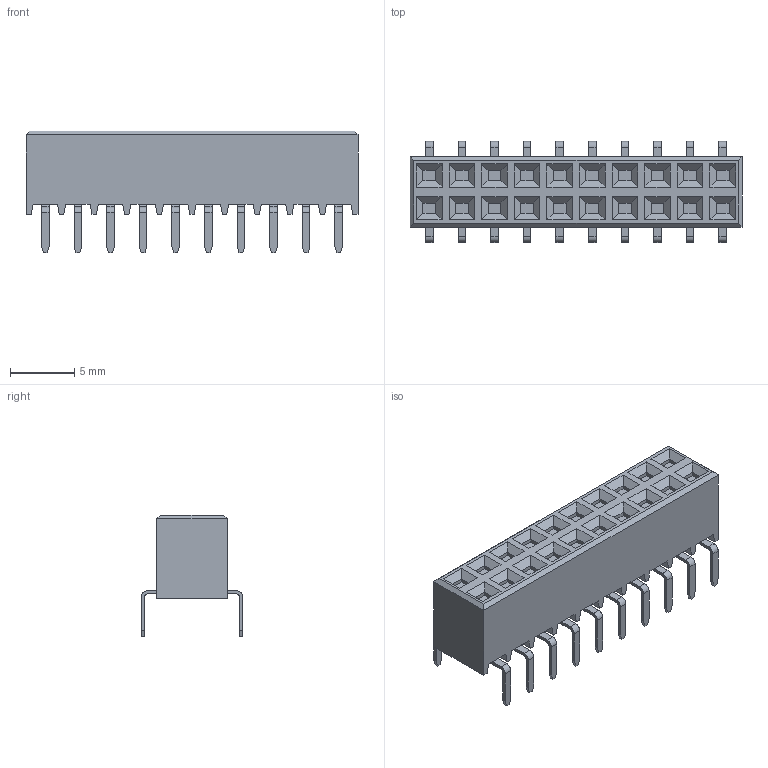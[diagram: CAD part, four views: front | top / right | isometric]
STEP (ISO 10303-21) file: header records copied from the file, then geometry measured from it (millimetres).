
FILE_DESCRIPTION (( 'STEP AP214' ), '1' );
FILE_NAME ('00_9072_220_901_883+.STEP', '2019-11-05T06:06:48', ( '' ), ( '' ), 'SwSTEP 2.0', 'SolidWorks 2017', '' );
FILE_SCHEMA (( 'AUTOMOTIVE_DESIGN' ));
Length unit declared in the file: millimetre
Products named in the file (1): 00_9072_220_901_883+
Bounding box: 25.86 x 7.87 x 9.5 mm (x, y, z)
Volume: 822 mm3; surface area: 943.1 mm2
Topology: 1 solids, 1 shells, 490 faces, 1260 edges, 812 vertices
Faces by surface type: plane 410, cylinder 80
Entity records: 14646 total; most frequent: CARTESIAN_POINT 2563, ORIENTED_EDGE 2520, DIRECTION 2402, EDGE_CURVE 1260, VECTOR 1100, LINE 1100, VERTEX_POINT 812, AXIS2_PLACEMENT_3D 651
